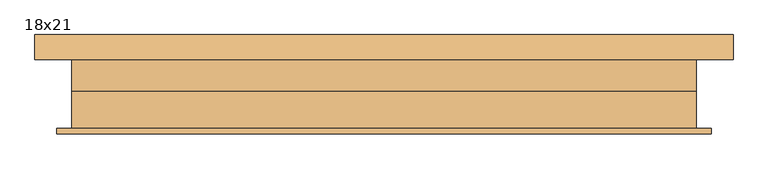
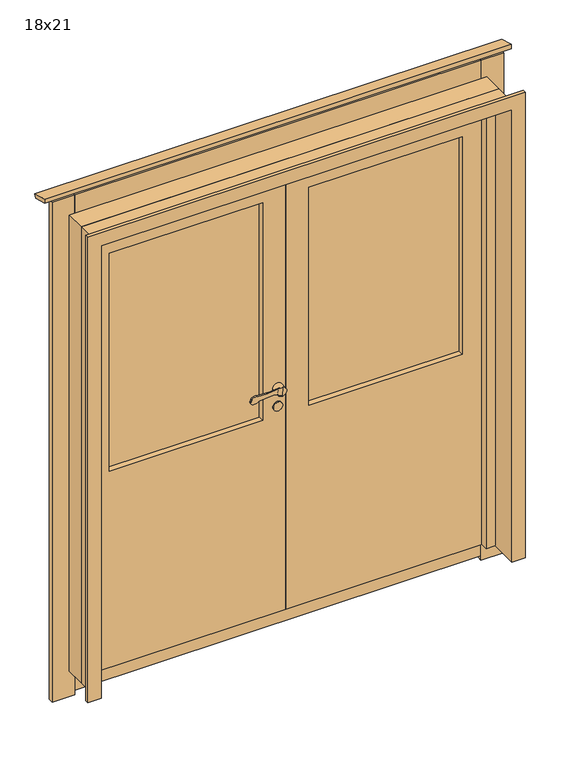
"""IFC4 building model written with IfcOpenShell, lengths in millimetres: door geometry, Eigen 1 med glas Dobbel : 18x21."""

from ifc_helpers import new_model, si_unit, point, frame, frame_2d, origin, place, context, project, spatial, polyline, circle_curve, trimmed, segment, composite_curve, outline, extrude, faceted_brep, source, transform, mapped, element, save
from ifc_brep_helpers import plane_surface, cylinder_surface, revolved_surface, advanced_brep


def door_18x21_e1513df9(model_context):
    return source(origin(), model_context, "Body", "SolidModel", [
        extrude(outline(composite_curve([segment(trimmed(circle_curve(frame_2d((965.0, -6.0)), 20.0), [point((965.0, 14.0))], [point((965.0, -26.0))], False, "CARTESIAN"), True, "CONTINUOUS"), segment(trimmed(circle_curve(frame_2d((965.0, -6.0)), 20.0), [point((965.0, -26.0))], [point((965.0, 14.0))], False, "CARTESIAN"), True, "CONTINUOUS")], self_intersect=False)), frame((0.0, 12.0, 0.0), z_axis=(0.0, 1.0, 0.0), x_axis=(0.0, 0.0, 1.0)), (0.0, 0.0, 1.0), 5.0),
        extrude(outline(composite_curve([segment(trimmed(circle_curve(frame_2d((1092.7619371, -66.69597)), 30.0000001), [point((1062.9128632, -63.6905097))], [point((1062.8329847, -68.7594173))], True, "CARTESIAN"), True, "CONTINUOUS"), segment(polyline([(1062.8329847, -68.7594173), (1065.9164674, -113.4833155)]), True, "CONTINUOUS"), segment(trimmed(circle_curve(frame_2d((1036.4559309, -119.1469534)), 30.0000001), [point((1065.9164674, -113.4833155))], [point((1063.5335945, -132.0620661))], False, "CARTESIAN"), True, "CONTINUOUS"), segment(trimmed(circle_curve(frame_2d((1054.5077066, -127.7570286)), 10.0), [point((1063.5335945, -132.0620661))], [point((1058.6149506, -136.874624))], False, "CARTESIAN"), True, "CONTINUOUS"), segment(polyline([(1058.6149506, -136.874624), (1050.5438812, -140.5104348)]), True, "CONTINUOUS"), segment(trimmed(circle_curve(frame_2d((1046.4366372, -131.3928393)), 10.0), [point((1050.5438812, -140.5104348))], [point((1037.3918831, -135.658097))], False, "CARTESIAN"), True, "CONTINUOUS"), segment(trimmed(circle_curve(frame_2d((1061.0052772, -124.5226687)), 26.1072815), [point((1037.3918831, -135.658097))], [point((1042.2785443, -106.3320221))], False, "CARTESIAN"), True, "CONTINUOUS"), segment(polyline([(1042.2785443, -106.3320221), (1048.6022345, -43.5275667)]), True, "CONTINUOUS"), segment(trimmed(circle_curve(frame_2d((1038.6525432, -42.5257466)), 10.0), [point((1048.6022345, -43.5275667))], [point((1047.7701387, -38.4185026))], True, "CARTESIAN"), True, "CONTINUOUS"), segment(polyline([(1047.7701387, -38.4185026), (1032.9010548, -5.4108965), (1069.0317715, -2.9198695), (1062.9128632, -63.6905097)]), True, "CONTINUOUS")], self_intersect=False)), frame((0.0, -18.0, 0.0), z_axis=(0.0, 1.0, 0.0), x_axis=(0.0, 0.0, 1.0)), (0.0, 0.0, 1.0), 7.1084716),
        extrude(outline(composite_curve([segment(trimmed(circle_curve(frame_2d((1050.0, -6.0)), 20.0), [point((1050.0, 14.0))], [point((1050.0, -26.0))], False, "CARTESIAN"), True, "CONTINUOUS"), segment(trimmed(circle_curve(frame_2d((1050.0, -6.0)), 20.0), [point((1050.0, -26.0))], [point((1050.0, 14.0))], False, "CARTESIAN"), True, "CONTINUOUS")], self_intersect=False)), frame((0.0, -18.0, 0.0), z_axis=(0.0, 1.0, 0.0), x_axis=(0.0, 0.0, 1.0)), (0.0, 0.0, 1.0), 35.0),
        advanced_brep(
        [(14.0, 112.0, 1050.0), (-23.995517, 112.0, 1041.2729519), (-38.4185026, 112.0, 1047.7701387), (-43.5275667, 112.0, 1048.6022345), (-106.3320221, 112.0, 1042.2785443), (-135.658097, 112.0, 1037.3918831), (-140.5104348, 112.0, 1050.5438812), (-136.874624, 112.0, 1058.6149506), (-132.0620661, 112.0, 1063.5335945), (-113.4833155, 112.0, 1065.9164674), (-68.7594173, 112.0, 1062.8329847), (-63.6905097, 112.0, 1062.9128632), (-15.1108537, 112.0, 1067.8042788), (14.0, 77.0, 1050.0), (-26.0, 77.0, 1050.0), (-26.0, 104.8915284, 1050.0), (-23.995517, 104.8915284, 1041.2729519), (-15.1108537, 104.8915284, 1067.8042788), (-63.6905097, 104.8915284, 1062.9128632), (-68.7594173, 104.8915284, 1062.8329847), (-113.4833155, 104.8915284, 1065.9164674), (-132.0620661, 104.8915284, 1063.5335945), (-136.874624, 104.8915284, 1058.6149506), (-140.5104348, 104.8915284, 1050.5438812), (-135.658097, 104.8915284, 1037.3918831), (-106.3320221, 104.8915284, 1042.2785443), (-43.5275667, 104.8915284, 1048.6022345), (-38.4185026, 104.8915284, 1047.7701387)],
        [
            (0, 1, circle_curve(frame((-6.0, 112.0, 1050.0), z_axis=(0.0, 1.0, 0.0), x_axis=(-1.0, 0.0, 0.0)), 20.0)),
            (1, 2),
            (2, 3, circle_curve(frame((-42.5257466, 112.0, 1038.6525432), z_axis=(0.0, -1.0, 0.0), x_axis=(-1.0, 0.0, 0.0)), 10.0)),
            (3, 4),
            (4, 5, circle_curve(frame((-124.5226687, 112.0, 1061.0052772), z_axis=(0.0, 1.0, 0.0), x_axis=(-1.0, 0.0, 0.0)), 26.1072815)),
            (5, 6, circle_curve(frame((-131.3928393, 112.0, 1046.4366372), z_axis=(0.0, 1.0, 0.0), x_axis=(-1.0, 0.0, 0.0)), 10.0)),
            (6, 7),
            (7, 8, circle_curve(frame((-127.7570286, 112.0, 1054.5077066), z_axis=(0.0, 1.0, 0.0), x_axis=(-1.0, 0.0, 0.0)), 10.0)),
            (8, 9, circle_curve(frame((-119.1469534, 112.0, 1036.4559309), z_axis=(0.0, 1.0, 0.0), x_axis=(-1.0, 0.0, 0.0)), 30.0000001)),
            (9, 10),
            (10, 11, circle_curve(frame((-66.69597, 112.0, 1092.7619371), z_axis=(0.0, -1.0, 0.0), x_axis=(-1.0, 0.0, 0.0)), 30.0000001)),
            (11, 12),
            (12, 0, circle_curve(frame((-6.0, 112.0, 1050.0), z_axis=(0.0, 1.0, 0.0), x_axis=(-1.0, 0.0, 0.0)), 20.0)),
            (13, 14, circle_curve(frame((-6.0, 77.0, 1050.0), z_axis=(0.0, -1.0, 0.0), x_axis=(-1.0, 0.0, 0.0)), 20.0)),
            (14, 13, circle_curve(frame((-6.0, 77.0, 1050.0), z_axis=(0.0, -1.0, 0.0), x_axis=(-1.0, 0.0, 0.0)), 20.0)),
            (14, 15),
            (15, 16, circle_curve(frame((-6.0, 104.8915284, 1050.0), z_axis=(0.0, -1.0, 0.0), x_axis=(-1.0, 0.0, 0.0)), 20.0)),
            (16, 1),
            (0, 13),
            (12, 17),
            (17, 15, circle_curve(frame((-6.0, 104.8915284, 1050.0), z_axis=(0.0, -1.0, 0.0), x_axis=(-1.0, 0.0, 0.0)), 20.0)),
            (18, 19, circle_curve(frame((-66.69597, 104.8915284, 1092.7619371), z_axis=(0.0, 1.0, 0.0), x_axis=(-1.0, 0.0, 0.0)), 30.0000001)),
            (19, 20),
            (20, 21, circle_curve(frame((-119.1469534, 104.8915284, 1036.4559309), z_axis=(0.0, -1.0, 0.0), x_axis=(-1.0, 0.0, 0.0)), 30.0000001)),
            (21, 22, circle_curve(frame((-127.7570286, 104.8915284, 1054.5077066), z_axis=(0.0, -1.0, 0.0), x_axis=(-1.0, 0.0, 0.0)), 10.0)),
            (22, 23),
            (23, 24, circle_curve(frame((-131.3928393, 104.8915284, 1046.4366372), z_axis=(0.0, -1.0, 0.0), x_axis=(-1.0, 0.0, 0.0)), 10.0)),
            (24, 25, circle_curve(frame((-124.5226687, 104.8915284, 1061.0052772), z_axis=(0.0, -1.0, 0.0), x_axis=(-1.0, 0.0, 0.0)), 26.1072815)),
            (25, 26),
            (26, 27, circle_curve(frame((-42.5257466, 104.8915284, 1038.6525432), z_axis=(0.0, 1.0, 0.0), x_axis=(-1.0, 0.0, 0.0)), 10.0)),
            (27, 16),
            (17, 18),
            (11, 18),
            (27, 2),
            (26, 3),
            (25, 4),
            (24, 5),
            (23, 6),
            (22, 7),
            (21, 8),
            (20, 9),
            (19, 10),
        ],
        [
            plane_surface(frame((-26.0, 112.0, 1050.0), z_axis=(0.0, 1.0, 0.0), x_axis=(0.0, 0.0, 1.0))),
            plane_surface(frame((-26.0, 77.0, 1050.0), z_axis=(0.0, -1.0, 0.0), x_axis=(0.0, 0.0, -1.0))),
            cylinder_surface(frame((-6.0, 77.0, 1050.0), z_axis=(0.0, 1.0, 0.0), x_axis=(-1.0, 0.0, 0.0)), 20.0),
            plane_surface(frame((-2.9198695, 104.8915284, 1069.0317715), z_axis=(0.0, -1.0, 0.0), x_axis=(-0.9949691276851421, 0.0, -0.10018200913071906))),
            plane_surface(frame((-63.6905097, 112.0, 1062.9128632), z_axis=(-0.10018200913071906, 0.0, 0.9949691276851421), x_axis=(0.0, -1.0, 0.0))),
            plane_surface(frame((-5.4108965, 112.0, 1032.9010548), z_axis=(-0.4107243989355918, 0.0, -0.9117595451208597), x_axis=(0.0, -1.0, 0.0))),
            revolved_surface(polyline([(-52.5257466, 104.8915284, 1038.6525432), (-52.5257466, 112.0, 1038.6525432)]), (-42.5257466, 104.8915284, 1038.6525432), (0.0, -1.0, 0.0)),
            plane_surface(frame((-43.5275667, 112.0, 1048.6022345), z_axis=(0.10018200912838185, 0.0, -0.9949691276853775), x_axis=(0.0, -1.0, 0.0))),
            cylinder_surface(frame((-124.5226687, 104.8915284, 1061.0052772), z_axis=(0.0, 1.0, 0.0), x_axis=(-1.0, 0.0, 0.0)), 26.1072815),
            cylinder_surface(frame((-131.3928393, 104.8915284, 1046.4366372), z_axis=(0.0, 1.0, 0.0), x_axis=(-1.0, 0.0, 0.0)), 10.0),
            plane_surface(frame((-140.5104348, 112.0, 1050.5438812), z_axis=(-0.9117595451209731, 0.0, 0.41072439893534), x_axis=(0.0, -1.0, 0.0))),
            cylinder_surface(frame((-127.7570286, 104.8915284, 1054.5077066), z_axis=(0.0, 1.0, 0.0), x_axis=(-1.0, 0.0, 0.0)), 10.0),
            cylinder_surface(frame((-119.1469534, 104.8915284, 1036.4559309), z_axis=(0.0, 1.0, 0.0), x_axis=(-1.0, 0.0, 0.0)), 30.0000001),
            plane_surface(frame((-113.4833155, 112.0, 1065.9164674), z_axis=(0.06878157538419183, 0.0, 0.9976317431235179), x_axis=(0.0, -1.0, 0.0))),
            revolved_surface(polyline([(-96.69597010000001, 104.8915284, 1092.7619371), (-96.69597010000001, 112.0, 1092.7619371)]), (-66.69597, 104.8915284, 1092.7619371), (0.0, -1.0, 0.0)),
        ],
        [
            (0, [[1, 2, 3, 4, 5, 6, 7, 8, 9, 10, 11, 12, 13]]),
            (1, [[14, 15]]),
            (2, [[-15, 16, 17, 18, -1, 19]]),
            (2, [[-14, -19, -13, 20, 21, -16]]),
            (3, [[22, 23, 24, 25, 26, 27, 28, 29, 30, 31, -17, -21, 32]]),
            (4, [[33, -32, -20, -12]]),
            (5, [[34, -2, -18, -31]]),
            (6, [[-3, -34, -30, 35]]),
            (7, [[-4, -35, -29, 36]]),
            (8, [[-5, -36, -28, 37]]),
            (9, [[-6, -37, -27, 38]]),
            (10, [[-7, -38, -26, 39]]),
            (11, [[-8, -39, -25, 40]]),
            (12, [[-9, -40, -24, 41]]),
            (13, [[-10, -41, -23, 42]]),
            (14, [[-11, -42, -22, -33]]),
        ],
    ),
        extrude(outline(composite_curve([segment(trimmed(circle_curve(frame_2d((965.0, -6.0)), 20.0), [point((965.0, 14.0))], [point((965.0, -26.0))], False, "CARTESIAN"), True, "CONTINUOUS"), segment(trimmed(circle_curve(frame_2d((965.0, -6.0)), 20.0), [point((965.0, -26.0))], [point((965.0, 14.0))], False, "CARTESIAN"), True, "CONTINUOUS")], self_intersect=False)), frame((0.0, 77.0, 0.0), z_axis=(0.0, 1.0, 0.0), x_axis=(0.0, 0.0, 1.0)), (0.0, 0.0, 1.0), 5.0),
        extrude(outline(polyline([(-836.0, 100.0), (-836.0, 122.0), (924.0, 122.0), (924.0, 100.0), (-836.0, 100.0)])), frame((0.0, 0.0, 2075.0), z_axis=(0.0, 0.0, 1.0), x_axis=(1.0, 0.0, 0.0)), (0.0, 0.0, 1.0), 98.0),
        extrude(outline(polyline([(172.444437, 2178.9885716), (167.5268751, 2160.6359809), (100.0, 2178.7297526), (100.0, 2198.4), (172.444437, 2178.9885716)])), frame((-967.0, 0.0, 0.0), z_axis=(1.0, 0.0, 0.0), x_axis=(0.0, 1.0, 0.0)), (0.0, 0.0, 1.0), 2022.0),
        extrude(outline(polyline([(1022.0, 100.0), (924.0, 100.0), (924.0, 122.0), (1022.0, 122.0), (1022.0, 100.0)])), frame((0.0, 0.0, -118.0), z_axis=(0.0, 0.0, 1.0), x_axis=(1.0, 0.0, 0.0)), (0.0, 0.0, 1.0), 2291.0),
        extrude(outline(polyline([(-836.0, 100.0), (-934.0, 100.0), (-934.0, 122.0), (-836.0, 122.0), (-836.0, 100.0)])), frame((0.0, 0.0, -118.0), z_axis=(0.0, 0.0, 1.0), x_axis=(1.0, 0.0, 0.0)), (0.0, 0.0, 1.0), 2291.0),
        extrude(outline(polyline([(-836.0, 100.0), (-836.0, 122.0), (924.0, 122.0), (924.0, 100.0), (-836.0, 100.0)])), frame((0.0, 0.0, -97.9948268), z_axis=(0.0, 0.0, 1.0), x_axis=(1.0, 0.0, 0.0)), (0.0, 0.0, 1.0), 97.9948268),
        faceted_brep([(949.0, 10.0, 0.0), (894.0, 10.0, 0.0), (894.0, 42.0, 0.0), (909.0, 42.0, 0.0), (909.0, 102.0, 0.0), (949.0, 102.0, 0.0), (949.0, 10.0, 2088.0), (-861.0, 10.0, 2088.0), (-861.0, 10.0, 0.0), (-806.0, 10.0, 0.0), (-806.0, 10.0, 2033.0), (894.0, 10.0, 2033.0), (894.0, 42.0, 2033.0), (-806.0, 42.0, 2033.0), (-806.0, 42.0, 0.0), (-821.0, 42.0, 0.0), (-821.0, 42.0, 2048.0), (909.0, 42.0, 2048.0), (909.0, 102.0, 2048.0), (-821.0, 102.0, 2048.0), (-821.0, 102.0, 0.0), (-861.0, 102.0, 0.0), (-861.0, 102.0, 2088.0), (949.0, 102.0, 2088.0)], [[[0, 1, 2, 3, 4, 5]], [[1, 0, 6, 7, 8, 9, 10, 11]], [[2, 1, 11, 12]], [[3, 2, 12, 13, 14, 15, 16, 17]], [[4, 3, 17, 18]], [[5, 4, 18, 19, 20, 21, 22, 23]], [[0, 5, 23, 6]], [[7, 22, 21, 8]], [[8, 21, 20, 15, 14, 9]], [[13, 10, 9, 14]], [[19, 16, 15, 20]], [[12, 11, 10, 13]], [[18, 17, 16, 19]], [[6, 23, 22, 7]]]),
        extrude(outline(polyline([(0.0, 924.0), (0.0, 949.0), (2088.0, 949.0), (2088.0, -861.0), (0.0, -861.0), (0.0, -836.0), (2063.0, -836.0), (2063.0, 924.0), (0.0, 924.0)])), frame((0.0, 100.0, 0.0), z_axis=(0.0, 1.0, 0.0), x_axis=(0.0, 0.0, 1.0)), (0.0, 0.0, 1.0), 2.0),
        faceted_brep([(-861.0, -100.0, 0.0), (-861.0, 10.0, 0.0), (-846.0, 10.0, 0.0), (-846.0, -115.0, 0.0), (-904.0, -115.0, 0.0), (-904.0, -100.0, 0.0), (-861.0, -100.0, 2088.0), (-861.0, 10.0, 2088.0), (949.0, 10.0, 2088.0), (949.0, 10.0, 0.0), (934.0, 10.0, 0.0), (934.0, 10.0, 2073.0), (-846.0, 10.0, 2073.0), (-846.0, -115.0, 2073.0), (934.0, -115.0, 2073.0), (934.0, -115.0, 0.0), (992.0, -115.0, 0.0), (992.0, -115.0, 2131.0), (-904.0, -115.0, 2131.0), (-904.0, -100.0, 2131.0), (992.0, -100.0, 2131.0), (992.0, -100.0, 0.0), (949.0, -100.0, 0.0), (949.0, -100.0, 2088.0)], [[[0, 1, 2, 3, 4, 5]], [[1, 0, 6, 7]], [[2, 1, 7, 8, 9, 10, 11, 12]], [[3, 2, 12, 13]], [[4, 3, 13, 14, 15, 16, 17, 18]], [[5, 4, 18, 19]], [[0, 5, 19, 20, 21, 22, 23, 6]], [[8, 23, 22, 9]], [[22, 21, 16, 15, 10, 9]], [[14, 11, 10, 15]], [[20, 17, 16, 21]], [[7, 6, 23, 8]], [[13, 12, 11, 14]], [[19, 18, 17, 20]]]),
        extrude(outline(polyline([(-56.0, 67.0), (-721.0, 67.0), (-721.0, 77.0), (-56.0, 77.0), (-56.0, 67.0)])), frame((0.0, 0.0, 900.0), z_axis=(0.0, 0.0, 1.0), x_axis=(1.0, 0.0, 0.0)), (0.0, 0.0, 1.0), 998.0),
        extrude(outline(polyline([(0.0, 44.0), (2048.0, 44.0), (2048.0, -821.0), (0.0, -821.0), (0.0, 44.0)]), holes=[polyline([(900.0, -721.0), (1898.0, -721.0), (1898.0, -56.0), (900.0, -56.0), (900.0, -721.0)])]), frame((0.0, 42.0, 0.0), z_axis=(0.0, 1.0, 0.0), x_axis=(0.0, 0.0, 1.0)), (0.0, 0.0, 1.0), 60.0),
        extrude(outline(polyline([(809.0, 67.0), (144.0, 67.0), (144.0, 77.0), (809.0, 77.0), (809.0, 67.0)])), frame((0.0, 0.0, 900.0), z_axis=(0.0, 0.0, 1.0), x_axis=(1.0, 0.0, 0.0)), (0.0, 0.0, 1.0), 998.0),
        extrude(outline(polyline([(0.0, 44.0), (0.0, 909.0), (2048.0, 909.0), (2048.0, 44.0), (0.0, 44.0)]), holes=[polyline([(900.0, 809.0), (900.0, 144.0), (1898.0, 144.0), (1898.0, 809.0), (900.0, 809.0)])]), frame((0.0, 42.0, 0.0), z_axis=(0.0, 1.0, 0.0), x_axis=(0.0, 0.0, 1.0)), (0.0, 0.0, 1.0), 60.0),
    ])


if __name__ == "__main__":
    model = new_model("IFC4")
    model_context = context("Model", 3, world=origin())
    ifc_project = project(units=[si_unit("LENGTHUNIT", "METRE", prefix="MILLI")], contexts=[model_context])
    site = spatial("IfcSite", under=ifc_project)
    building = spatial("IfcBuilding", under=site)
    placement = place(None, origin())
    door_18x21_shape = door_18x21_e1513df9(model_context)
    element("IfcDoor", 1, ObjectType="Eigen 1 med glas Dobbel : 18x21", at=placement, inside=building, context=model_context, shape_type="MappedRepresentation", body=[
        mapped(door_18x21_shape, transform((0.0, 0.0, 0.0), x_axis=(1.0, 0.0, 0.0), y_axis=(0.0, 1.0, 0.0), z_axis=(0.0, 0.0, 1.0))),
    ])
    save(model, "model.ifc")
